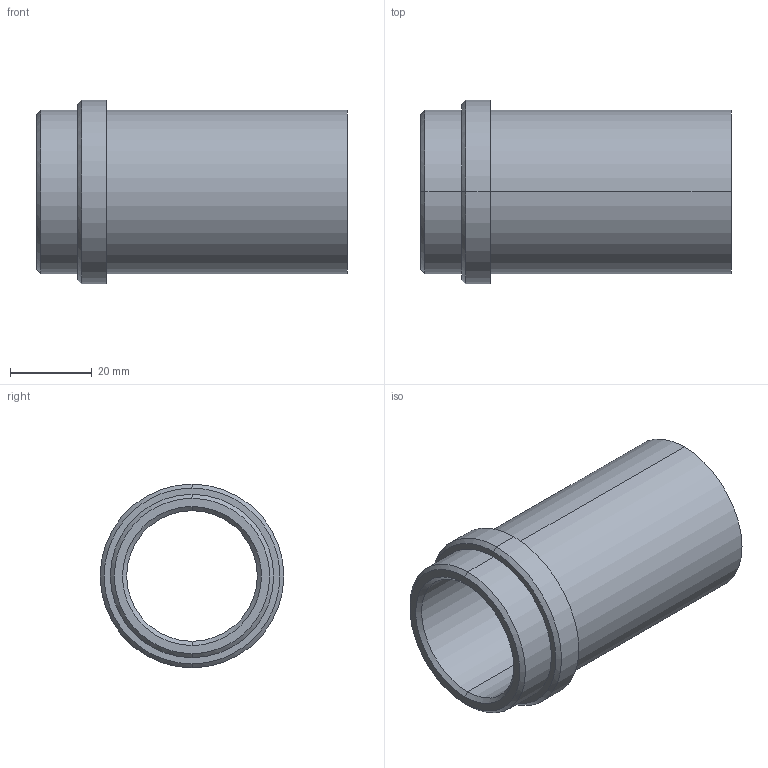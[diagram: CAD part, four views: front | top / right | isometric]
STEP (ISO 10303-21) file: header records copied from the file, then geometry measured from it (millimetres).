
FILE_DESCRIPTION(('CATIA V5 STEP Exchange'),'2;1');
FILE_NAME('C:\Users\Utente\Desktop\IO LAVORO\3D X SITO CF\X SITO\PLASTICA\358\358-32x76.stp','2021-04-09T13:15:36+00:00',('none'),('none'),'CATIA Version 5 Release 20 GA (IN-10)','CATIA V5 STEP AP203','none');
FILE_SCHEMA(('CONFIG_CONTROL_DESIGN'));
Length unit declared in the file: millimetre
Products named in the file (1): 358-32X76
Bounding box: 76 x 45 x 45 mm (x, y, z)
Volume: 36446.7 mm3; surface area: 18572 mm2
Topology: 1 solids, 1 shells, 20 faces, 64 edges, 48 vertices
Faces by surface type: cylinder 8, cone 6, plane 4, torus 2
Entity records: 906 total; most frequent: CARTESIAN_POINT 301, ORIENTED_EDGE 128, DIRECTION 92, EDGE_CURVE 64, AXIS2_PLACEMENT_3D 59, VERTEX_POINT 48, CIRCLE 38, EDGE_LOOP 24
